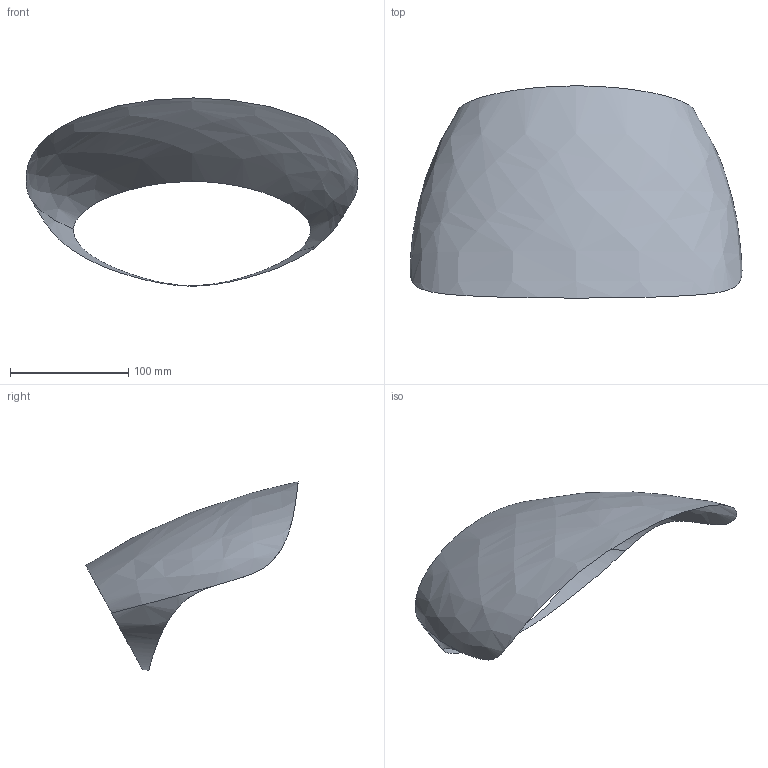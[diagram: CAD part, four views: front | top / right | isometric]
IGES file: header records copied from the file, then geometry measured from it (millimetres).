
Start section: SolidWorks IGES file using analytic representation for surfaces
Global section: file name: C:\Documents and Settings\Pedro Santana\My Documents\Courses\ut\2008\boundary surface.IGS; native system: SolidWorks 2008; preprocessor: SolidWorks 2008; author: Pedro Santana; date: 070709.125603; units: millimetre
Bounding box: 280.24 x 179.19 x 158.86 mm (x, y, z)
Surface area: 62230.4 mm2 (no closed solid volume)
Topology: 0 solids, 0 shells, 2 faces, 180 edges, 180 vertices
Faces by surface type: bspline 2
